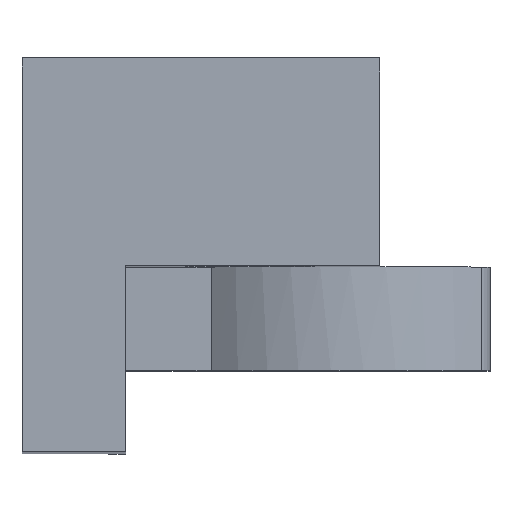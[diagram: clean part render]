
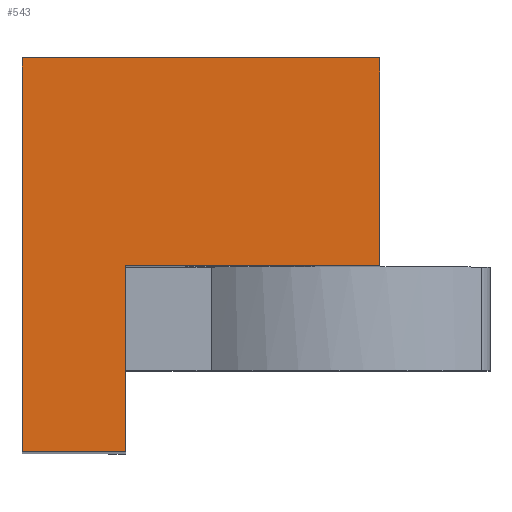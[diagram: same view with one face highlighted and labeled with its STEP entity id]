
A CAD part, top view. The second image highlights one B-rep face of the part: STEP entity #543.
In plain terms, the highlighted planar face has unit normal (0, 0, 1).
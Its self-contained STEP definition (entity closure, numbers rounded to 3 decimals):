
#102=FACE_OUTER_BOUND('',#135,.T.);
#135=EDGE_LOOP('',(#485,#486,#487,#488,#489,#490));
#143=LINE('',#799,#184);
#156=LINE('',#854,#197);
#165=LINE('',#896,#206);
#166=LINE('',#898,#207);
#181=LINE('',#946,#222);
#182=LINE('',#947,#223);
#184=VECTOR('',#628,10.);
#197=VECTOR('',#679,10.);
#206=VECTOR('',#726,10.);
#207=VECTOR('',#729,10.);
#222=VECTOR('',#788,10.);
#223=VECTOR('',#789,10.);
#225=VERTEX_POINT('',#797);
#226=VERTEX_POINT('',#798);
#248=VERTEX_POINT('',#852);
#249=VERTEX_POINT('',#853);
#263=VERTEX_POINT('',#894);
#274=VERTEX_POINT('',#945);
#275=EDGE_CURVE('',#225,#226,#143,.T.);
#302=EDGE_CURVE('',#248,#249,#156,.T.);
#324=EDGE_CURVE('',#226,#263,#165,.T.);
#325=EDGE_CURVE('',#263,#249,#166,.T.);
#349=EDGE_CURVE('',#274,#248,#181,.T.);
#350=EDGE_CURVE('',#274,#225,#182,.T.);
#485=ORIENTED_EDGE('',*,*,#275,.T.);
#486=ORIENTED_EDGE('',*,*,#324,.T.);
#487=ORIENTED_EDGE('',*,*,#325,.T.);
#488=ORIENTED_EDGE('',*,*,#302,.F.);
#489=ORIENTED_EDGE('',*,*,#349,.F.);
#490=ORIENTED_EDGE('',*,*,#350,.T.);
#515=PLANE('',#621);
#543=ADVANCED_FACE('',(#102),#515,.T.);
#621=AXIS2_PLACEMENT_3D('',#944,#786,#787);
#628=DIRECTION('',(0.,-1.,0.));
#679=DIRECTION('',(-1.,0.,0.));
#726=DIRECTION('',(1.,0.,0.));
#729=DIRECTION('',(0.,1.,0.));
#786=DIRECTION('center_axis',(0.,0.,1.));
#787=DIRECTION('ref_axis',(1.,0.,0.));
#788=DIRECTION('',(0.,-1.,0.));
#789=DIRECTION('',(-1.,0.,0.));
#797=CARTESIAN_POINT('',(-63.7,6.,-23.419));
#798=CARTESIAN_POINT('',(-63.7,-1.6,-23.419));
#799=CARTESIAN_POINT('',(-63.7,4.1,-23.419));
#852=CARTESIAN_POINT('',(-56.799,2.,-23.419));
#853=CARTESIAN_POINT('',(-61.7,2.,-23.419));
#854=CARTESIAN_POINT('',(-59.299,2.,-23.419));
#894=CARTESIAN_POINT('',(-61.7,-1.6,-23.419));
#896=CARTESIAN_POINT('',(-62.2,-1.6,-23.419));
#898=CARTESIAN_POINT('',(-61.7,0.,-23.419));
#944=CARTESIAN_POINT('Origin',(-61.7,2.,-23.419));
#945=CARTESIAN_POINT('',(-56.799,6.,-23.419));
#946=CARTESIAN_POINT('',(-56.799,2.,-23.419));
#947=CARTESIAN_POINT('',(-59.717,6.,-23.419));
